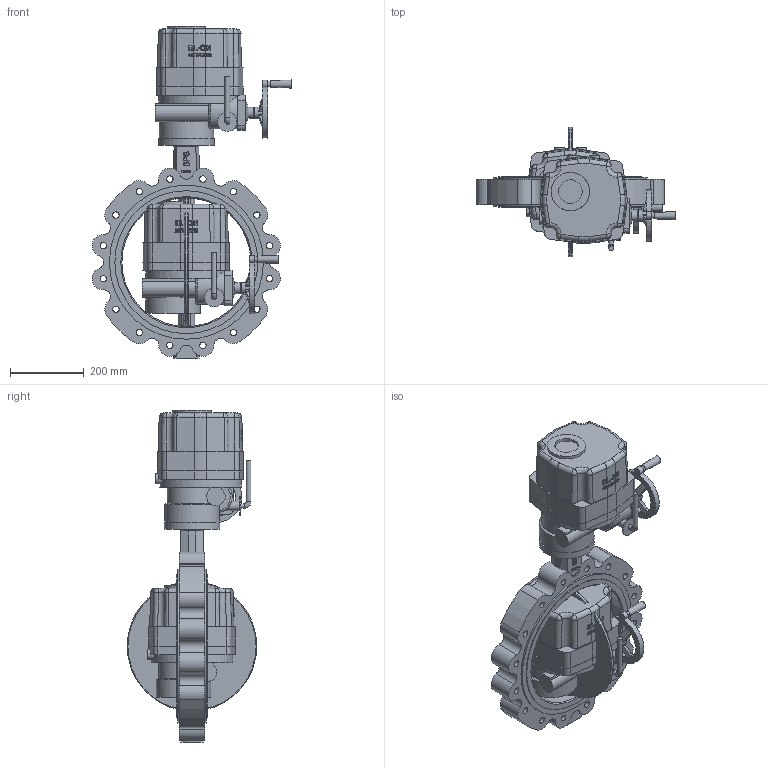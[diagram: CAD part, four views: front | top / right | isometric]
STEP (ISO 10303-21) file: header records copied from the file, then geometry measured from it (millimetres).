
FILE_DESCRIPTION( ( 'Unknown' ), '1' );
FILE_NAME( 'R:/ECCUA/ROOTSI BPS 3D vidinad/Poordklapid Lug type/Butterfly valve(lug) with electric actuator BPS/STEP formaat/BPS 2313350E(R) butterfly valve DN350.stp', 'Unknown', ( 'Unknown' ), ( 'Unknown' ), 'PSStep 10.1', 'Unknown', ' ' );
FILE_SCHEMA( ( 'AUTOMOTIVE_DESIGN { 1 0 10303 214 1 1 1 1 }' ) );
Length unit declared in the file: millimetre
Products named in the file (3): Assem1; BPS 8005300-500 electric actuator DN200-350; Butterfly valve lug type DN350 PN10 BPS
Bounding box: 541.57 x 352 x 901 mm (x, y, z)
Volume: 41336093.3 mm3; surface area: 2450700.6 mm2
Topology: 4 solids, 4 shells, 1040 faces, 2726 edges, 1772 vertices
Faces by surface type: plane 364, cylinder 318, bspline 126, extrusion 98, cone 96, torus 22, sphere 16
Full cylindrical faces by diameter (mm): 8.376 x16, 10.106 x16, 13 x4, 14 x8, 15 x2, 17.294 x32, 18 x2, 25 x2, 27 x4, 30 x4, 35 x2, 52 x2, 64 x2, 104 x2, 106 x2, 134 x2, 148 x2, 150 x2, 350 x2, 388 x4, 418 x4
Entity records: 30009 total; most frequent: CARTESIAN_POINT 14251, ORIENTED_EDGE 2462, DIRECTION 2045, EDGE_CURVE 1231, VERTEX_POINT 848, AXIS2_PLACEMENT_3D 791, EDGE_LOOP 699, FACE_OUTER_BOUND 584
